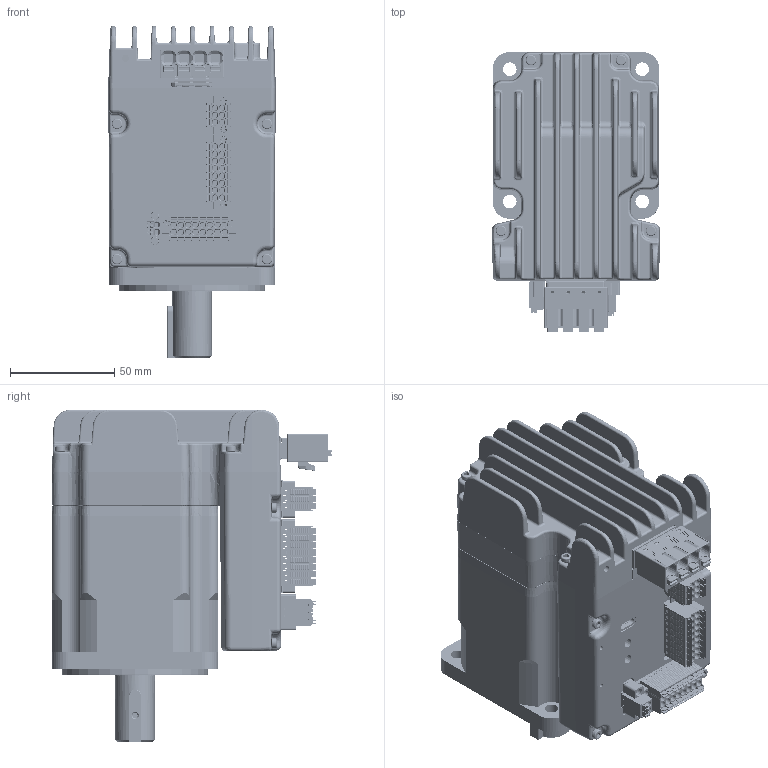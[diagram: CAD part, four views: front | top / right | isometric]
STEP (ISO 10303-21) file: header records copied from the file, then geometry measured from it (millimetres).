
FILE_DESCRIPTION((''),'2;1');
FILE_NAME('ISMD80D-DQ-AA','2025-10-31T16:55:05',('RD0060'),(''),'CREO PARAMETRIC BY PTC INC, 2016510','CREO PARAMETRIC BY PTC INC, 2016510','');
FILE_SCHEMA(('CONFIG_CONTROL_DESIGN'));
Products named in the file (1): ISMD80D-DQ-AA
Bounding box: 80.6 x 134.89 x 159.5 mm (x, y, z)
Surface area: 229281.5 mm2 (no closed solid volume)
Topology: 0 solids, 355 shells, 8619 faces, 26135 edges, 17602 vertices
Faces by surface type: plane 4460, cylinder 2054, bspline 867, torus 703, cone 371, sphere 144, extrusion 20
Entity records: 334857 total; most frequent: CARTESIAN_POINT 109427, DIRECTION 45631, ORIENTED_EDGE 44080, EDGE_CURVE 25905, VERTEX_POINT 17602, VECTOR 15803, LINE 15783, AXIS2_PLACEMENT_3D 14914
